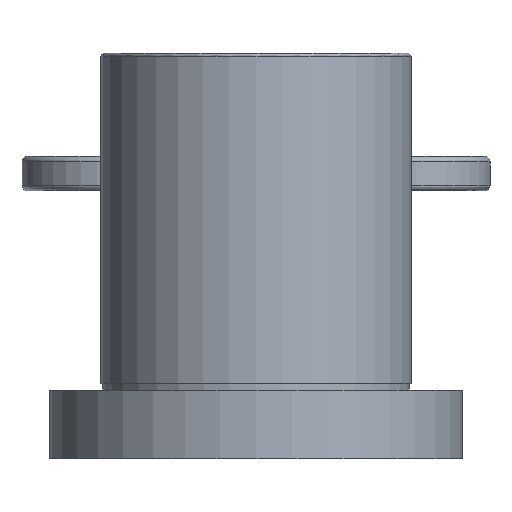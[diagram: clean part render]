
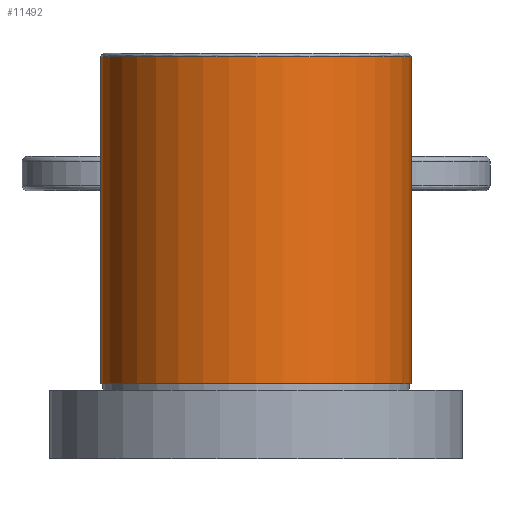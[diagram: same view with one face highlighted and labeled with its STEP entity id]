
A CAD part, front view. The second image highlights one B-rep face of the part: STEP entity #11492.
In plain terms, the highlighted cylindrical face has radius 22.5 mm (diameter 45 mm), a full revolution.
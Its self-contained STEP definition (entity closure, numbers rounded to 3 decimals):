
#11378=CARTESIAN_POINT('',(0.0,-22.5,-0.1));
#11379=VERTEX_POINT('',#11378);
#11380=CARTESIAN_POINT('',(0.0,22.5,-0.1));
#11381=VERTEX_POINT('',#11380);
#11382=CARTESIAN_POINT('',(0.0,0.0,-0.1));
#11383=DIRECTION('',(0.0,0.0,1.0));
#11384=DIRECTION('',(0.0,-1.0,0.0));
#11385=AXIS2_PLACEMENT_3D('',#11382,#11383,#11384);
#11386=CIRCLE('',#11385,22.5);
#11387=EDGE_CURVE('',#11379,#11381,#11386,.T.);
#11389=CARTESIAN_POINT('',(0.0,0.0,-0.1));
#11390=DIRECTION('',(0.0,0.0,1.0));
#11391=DIRECTION('',(0.0,-1.0,0.0));
#11392=AXIS2_PLACEMENT_3D('',#11389,#11390,#11391);
#11393=CIRCLE('',#11392,22.5);
#11394=EDGE_CURVE('',#11381,#11379,#11393,.T.);
#11399=CARTESIAN_POINT('',(0.0,0.0,47.4));
#11400=DIRECTION('',(0.0,0.0,-1.0));
#11401=DIRECTION('',(0.0,1.0,0.0));
#11402=AXIS2_PLACEMENT_3D('',#11399,#11400,#11401);
#11403=CYLINDRICAL_SURFACE('',#11402,22.5);
#11404=ORIENTED_EDGE('',*,*,#11394,.T.);
#11405=ORIENTED_EDGE('',*,*,#11387,.T.);
#11406=CARTESIAN_POINT('',(0.,22.5,30.922));
#11407=VERTEX_POINT('',#11406);
#11408=CARTESIAN_POINT('',(0.,22.5,30.922));
#11409=DIRECTION('',(0.0,0.0,-1.0));
#11410=VECTOR('',#11409,31.022);
#11411=LINE('',#11408,#11410);
#11412=EDGE_CURVE('',#11407,#11381,#11411,.T.);
#11413=ORIENTED_EDGE('',*,*,#11412,.F.);
#11414=CARTESIAN_POINT('',(4.978,21.942,35.9));
#11415=VERTEX_POINT('',#11414);
#11416=CARTESIAN_POINT('',(0.,22.5,30.922));
#11417=CARTESIAN_POINT('',(0.33,22.5,30.922));
#11418=CARTESIAN_POINT('',(1.117,22.482,31.));
#11419=CARTESIAN_POINT('',(2.341,22.39,31.428));
#11420=CARTESIAN_POINT('',(3.375,22.251,32.173));
#11421=CARTESIAN_POINT('',(4.283,22.094,33.241));
#11422=CARTESIAN_POINT('',(4.776,21.988,34.304));
#11423=CARTESIAN_POINT('',(4.957,21.947,35.307));
#11424=CARTESIAN_POINT('',(4.978,21.942,35.731));
#11425=CARTESIAN_POINT('',(4.978,21.942,35.9));
#11426=B_SPLINE_CURVE_WITH_KNOTS('',3,(#11416,#11417,#11418,#11419,#11420,#11421,#11422,#11423,#11424,#11425),.UNSPECIFIED.,.F.,.U.,(4,1,1,1,1,1,1,4),(0.0,0.992,2.358,3.863,4.795,6.573,7.336,7.844),.UNSPECIFIED.);
#11427=EDGE_CURVE('',#11407,#11415,#11426,.T.);
#11428=ORIENTED_EDGE('',*,*,#11427,.T.);
#11429=CARTESIAN_POINT('',(0.,22.5,40.878));
#11430=VERTEX_POINT('',#11429);
#11431=CARTESIAN_POINT('',(4.978,21.942,35.9));
#11432=CARTESIAN_POINT('',(4.978,21.942,36.069));
#11433=CARTESIAN_POINT('',(4.957,21.947,36.493));
#11434=CARTESIAN_POINT('',(4.776,21.988,37.496));
#11435=CARTESIAN_POINT('',(4.283,22.094,38.559));
#11436=CARTESIAN_POINT('',(3.375,22.251,39.627));
#11437=CARTESIAN_POINT('',(2.341,22.39,40.372));
#11438=CARTESIAN_POINT('',(1.117,22.482,40.8));
#11439=CARTESIAN_POINT('',(0.33,22.5,40.878));
#11440=CARTESIAN_POINT('',(0.,22.5,40.878));
#11441=B_SPLINE_CURVE_WITH_KNOTS('',3,(#11431,#11432,#11433,#11434,#11435,#11436,#11437,#11438,#11439,#11440),.UNSPECIFIED.,.F.,.U.,(4,1,1,1,1,1,1,4),(0.0,0.508,1.271,3.049,3.981,5.487,6.852,7.844),.UNSPECIFIED.);
#11442=EDGE_CURVE('',#11415,#11430,#11441,.T.);
#11443=ORIENTED_EDGE('',*,*,#11442,.T.);
#11444=CARTESIAN_POINT('',(0.,22.5,47.4));
#11445=VERTEX_POINT('',#11444);
#11446=CARTESIAN_POINT('',(0.,22.5,47.4));
#11447=DIRECTION('',(0.0,0.0,-1.0));
#11448=VECTOR('',#11447,6.522);
#11449=LINE('',#11446,#11448);
#11450=EDGE_CURVE('',#11445,#11430,#11449,.T.);
#11451=ORIENTED_EDGE('',*,*,#11450,.F.);
#11452=CARTESIAN_POINT('',(0.0,-22.5,47.4));
#11453=VERTEX_POINT('',#11452);
#11454=CARTESIAN_POINT('',(0.0,0.0,47.4));
#11455=DIRECTION('',(0.0,0.0,-1.0));
#11456=DIRECTION('',(-1.0,0.0,0.0));
#11457=AXIS2_PLACEMENT_3D('',#11454,#11455,#11456);
#11458=CIRCLE('',#11457,22.5);
#11459=EDGE_CURVE('',#11445,#11453,#11458,.T.);
#11460=ORIENTED_EDGE('',*,*,#11459,.T.);
#11461=CARTESIAN_POINT('',(0.0,0.0,47.4));
#11462=DIRECTION('',(0.0,0.0,-1.0));
#11463=DIRECTION('',(-1.0,0.0,0.0));
#11464=AXIS2_PLACEMENT_3D('',#11461,#11462,#11463);
#11465=CIRCLE('',#11464,22.5);
#11466=EDGE_CURVE('',#11453,#11445,#11465,.T.);
#11467=ORIENTED_EDGE('',*,*,#11466,.T.);
#11468=ORIENTED_EDGE('',*,*,#11450,.T.);
#11469=CARTESIAN_POINT('',(0.,22.5,40.878));
#11470=CARTESIAN_POINT('',(-0.303,22.5,40.878));
#11471=CARTESIAN_POINT('',(-1.044,22.485,40.81));
#11472=CARTESIAN_POINT('',(-1.962,22.42,40.512));
#11473=CARTESIAN_POINT('',(-2.969,22.31,39.947));
#11474=CARTESIAN_POINT('',(-3.765,22.188,39.239));
#11475=CARTESIAN_POINT('',(-4.438,22.06,38.237));
#11476=CARTESIAN_POINT('',(-4.837,21.975,37.24));
#11477=CARTESIAN_POINT('',(-5.013,21.934,36.146));
#11478=CARTESIAN_POINT('',(-4.945,21.95,35.033));
#11479=CARTESIAN_POINT('',(-4.637,22.018,33.984));
#11480=CARTESIAN_POINT('',(-4.065,22.133,32.94));
#11481=CARTESIAN_POINT('',(-3.343,22.256,32.158));
#11482=CARTESIAN_POINT('',(-2.341,22.385,31.456));
#11483=CARTESIAN_POINT('',(-1.276,22.477,31.025));
#11484=CARTESIAN_POINT('',(-0.381,22.5,30.922));
#11485=CARTESIAN_POINT('',(0.,22.5,30.922));
#11486=B_SPLINE_CURVE_WITH_KNOTS('',3,(#11469,#11470,#11471,#11472,#11473,#11474,#11475,#11476,#11477,#11478,#11479,#11480,#11481,#11482,#11483,#11484,#11485),.UNSPECIFIED.,.F.,.U.,(4,1,1,1,1,1,1,1,1,1,1,1,1,1,4),(0.0,0.911,2.22,2.88,4.382,5.4,6.501,7.596,8.704,9.825,10.861,12.27,13.008,14.544,15.689),.UNSPECIFIED.);
#11487=EDGE_CURVE('',#11430,#11407,#11486,.T.);
#11488=ORIENTED_EDGE('',*,*,#11487,.T.);
#11489=ORIENTED_EDGE('',*,*,#11412,.T.);
#11490=EDGE_LOOP('',(#11404,#11405,#11413,#11428,#11443,#11451,#11460,#11467,#11468,#11488,#11489));
#11491=FACE_OUTER_BOUND('',#11490,.T.);
#11492=ADVANCED_FACE('',(#11491),#11403,.T.);
